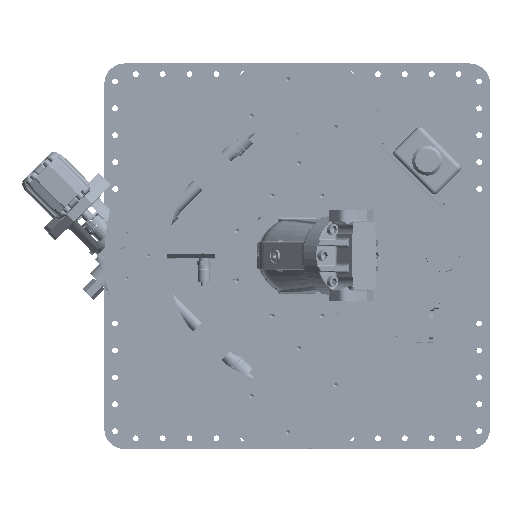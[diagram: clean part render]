
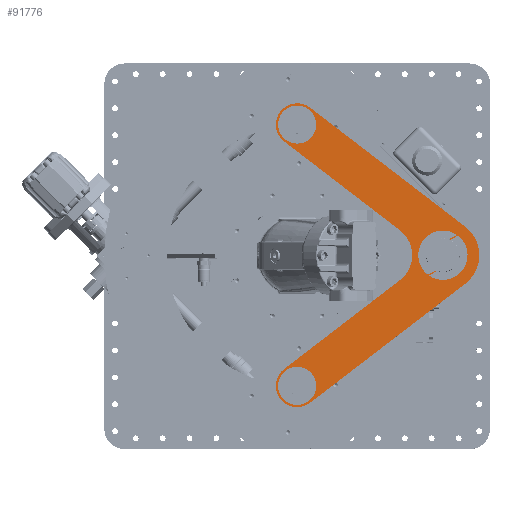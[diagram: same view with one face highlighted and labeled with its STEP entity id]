
A CAD part, top view. The second image highlights one B-rep face of the part: STEP entity #91776.
In plain terms, the highlighted planar face has unit normal (0, 0, 1).
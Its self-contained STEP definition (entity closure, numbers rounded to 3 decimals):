
#4456=FACE_BOUND('',#16202,.T.);
#4457=FACE_BOUND('',#16203,.T.);
#4458=FACE_BOUND('',#16204,.T.);
#6103=CIRCLE('',#97404,25.633);
#6105=CIRCLE('',#97408,25.633);
#6118=CIRCLE('',#97427,55.);
#6123=CIRCLE('',#97437,55.);
#6124=CIRCLE('',#97439,47.5);
#6125=CIRCLE('',#97440,80.);
#6126=CIRCLE('',#97441,47.5);
#6127=CIRCLE('',#97442,70.);
#6128=CIRCLE('',#97443,38.);
#6129=CIRCLE('',#97444,38.);
#6130=CIRCLE('',#97445,25.633);
#6131=CIRCLE('',#97446,25.633);
#10937=FACE_OUTER_BOUND('',#16201,.T.);
#16201=EDGE_LOOP('',(#59223,#59224,#59225,#59226,#59227,#59228,#59229,#59230));
#16202=EDGE_LOOP('',(#59231,#59232,#59233,#59234,#59235,#59236,#59237,#59238));
#16203=EDGE_LOOP('',(#59239,#59240));
#16204=EDGE_LOOP('',(#59241,#59242));
#22089=LINE('',#132667,#28546);
#22092=LINE('',#132679,#28549);
#22099=LINE('',#132699,#28556);
#22102=LINE('',#132709,#28559);
#22104=LINE('',#132716,#28561);
#22105=LINE('',#132720,#28562);
#22106=LINE('',#132724,#28563);
#22107=LINE('',#132728,#28564);
#28546=VECTOR('',#106512,10.);
#28549=VECTOR('',#106525,10.);
#28556=VECTOR('',#106544,10.);
#28559=VECTOR('',#106555,10.);
#28561=VECTOR('',#106563,10.);
#28562=VECTOR('',#106566,10.);
#28563=VECTOR('',#106569,10.);
#28564=VECTOR('',#106572,10.);
#35669=VERTEX_POINT('',#132602);
#35674=VERTEX_POINT('',#132620);
#35679=VERTEX_POINT('',#132648);
#35681=VERTEX_POINT('',#132651);
#35687=VERTEX_POINT('',#132665);
#35691=VERTEX_POINT('',#132678);
#35692=VERTEX_POINT('',#132684);
#35693=VERTEX_POINT('',#132685);
#35698=VERTEX_POINT('',#132697);
#35701=VERTEX_POINT('',#132708);
#35702=VERTEX_POINT('',#132714);
#35703=VERTEX_POINT('',#132715);
#35704=VERTEX_POINT('',#132717);
#35705=VERTEX_POINT('',#132719);
#35706=VERTEX_POINT('',#132721);
#35707=VERTEX_POINT('',#132723);
#35708=VERTEX_POINT('',#132725);
#35709=VERTEX_POINT('',#132727);
#35710=VERTEX_POINT('',#132732);
#35711=VERTEX_POINT('',#132733);
#44710=EDGE_CURVE('',#35674,#35669,#6103,.T.);
#44712=EDGE_CURVE('',#35669,#35674,#6105,.T.);
#44728=EDGE_CURVE('',#35679,#35687,#22089,.T.);
#44734=EDGE_CURVE('',#35691,#35681,#22092,.T.);
#44736=EDGE_CURVE('',#35687,#35691,#6118,.T.);
#44744=EDGE_CURVE('',#35692,#35698,#22099,.T.);
#44749=EDGE_CURVE('',#35701,#35693,#22102,.T.);
#44751=EDGE_CURVE('',#35698,#35701,#6123,.T.);
#44752=EDGE_CURVE('',#35702,#35703,#22104,.T.);
#44753=EDGE_CURVE('',#35703,#35704,#6124,.T.);
#44754=EDGE_CURVE('',#35704,#35705,#22105,.T.);
#44755=EDGE_CURVE('',#35705,#35706,#6125,.T.);
#44756=EDGE_CURVE('',#35706,#35707,#22106,.T.);
#44757=EDGE_CURVE('',#35707,#35708,#6126,.T.);
#44758=EDGE_CURVE('',#35708,#35709,#22107,.T.);
#44759=EDGE_CURVE('',#35709,#35702,#6127,.T.);
#44760=EDGE_CURVE('',#35681,#35692,#6128,.T.);
#44761=EDGE_CURVE('',#35693,#35679,#6129,.T.);
#44762=EDGE_CURVE('',#35710,#35711,#6130,.T.);
#44763=EDGE_CURVE('',#35711,#35710,#6131,.T.);
#59223=ORIENTED_EDGE('',*,*,#44752,.T.);
#59224=ORIENTED_EDGE('',*,*,#44753,.T.);
#59225=ORIENTED_EDGE('',*,*,#44754,.T.);
#59226=ORIENTED_EDGE('',*,*,#44755,.T.);
#59227=ORIENTED_EDGE('',*,*,#44756,.T.);
#59228=ORIENTED_EDGE('',*,*,#44757,.T.);
#59229=ORIENTED_EDGE('',*,*,#44758,.T.);
#59230=ORIENTED_EDGE('',*,*,#44759,.T.);
#59231=ORIENTED_EDGE('',*,*,#44728,.T.);
#59232=ORIENTED_EDGE('',*,*,#44736,.T.);
#59233=ORIENTED_EDGE('',*,*,#44734,.T.);
#59234=ORIENTED_EDGE('',*,*,#44760,.T.);
#59235=ORIENTED_EDGE('',*,*,#44744,.T.);
#59236=ORIENTED_EDGE('',*,*,#44751,.T.);
#59237=ORIENTED_EDGE('',*,*,#44749,.T.);
#59238=ORIENTED_EDGE('',*,*,#44761,.T.);
#59239=ORIENTED_EDGE('',*,*,#44762,.T.);
#59240=ORIENTED_EDGE('',*,*,#44763,.T.);
#59241=ORIENTED_EDGE('',*,*,#44712,.T.);
#59242=ORIENTED_EDGE('',*,*,#44710,.T.);
#84060=PLANE('',#97438);
#91776=ADVANCED_FACE('',(#10937,#4456,#4457,#4458),#84060,.T.);
#97404=AXIS2_PLACEMENT_3D('',#132632,#106472,#106473);
#97408=AXIS2_PLACEMENT_3D('',#132636,#106480,#106481);
#97427=AXIS2_PLACEMENT_3D('',#132682,#106529,#106530);
#97437=AXIS2_PLACEMENT_3D('',#132712,#106559,#106560);
#97438=AXIS2_PLACEMENT_3D('',#132713,#106561,#106562);
#97439=AXIS2_PLACEMENT_3D('',#132718,#106564,#106565);
#97440=AXIS2_PLACEMENT_3D('',#132722,#106567,#106568);
#97441=AXIS2_PLACEMENT_3D('',#132726,#106570,#106571);
#97442=AXIS2_PLACEMENT_3D('',#132729,#106573,#106574);
#97443=AXIS2_PLACEMENT_3D('',#132730,#106575,#106576);
#97444=AXIS2_PLACEMENT_3D('',#132731,#106577,#106578);
#97445=AXIS2_PLACEMENT_3D('',#132734,#106579,#106580);
#97446=AXIS2_PLACEMENT_3D('',#132735,#106581,#106582);
#106472=DIRECTION('center_axis',(0.,0.,
-1.));
#106473=DIRECTION('ref_axis',(0.,-1.,0.));
#106480=DIRECTION('center_axis',(0.,0.,
-1.));
#106481=DIRECTION('ref_axis',(0.,-1.,0.));
#106512=DIRECTION('',(-0.866,-0.5,0.));
#106525=DIRECTION('',(-0.866,-0.5,0.));
#106529=DIRECTION('center_axis',(0.,0.,
-1.));
#106530=DIRECTION('ref_axis',(0.866,-0.5,0.));
#106544=DIRECTION('',(0.866,0.5,0.));
#106555=DIRECTION('',(0.866,0.5,0.));
#106559=DIRECTION('center_axis',(0.,0.,
-1.));
#106560=DIRECTION('ref_axis',(0.866,-0.5,0.));
#106561=DIRECTION('center_axis',(0.,0.,
1.));
#106562=DIRECTION('ref_axis',(0.,-1.,0.));
#106563=DIRECTION('',(-0.793,-0.609,0.));
#106564=DIRECTION('center_axis',(0.,0.,
1.));
#106565=DIRECTION('ref_axis',(0.609,-0.793,0.));
#106566=DIRECTION('',(0.793,0.609,0.));
#106567=DIRECTION('center_axis',(0.,0.,
1.));
#106568=DIRECTION('ref_axis',(-0.609,0.793,0.));
#106569=DIRECTION('',(-0.793,0.609,0.));
#106570=DIRECTION('center_axis',(0.,0.,
1.));
#106571=DIRECTION('ref_axis',(-0.609,-0.793,0.));
#106572=DIRECTION('',(0.793,-0.609,0.));
#106573=DIRECTION('center_axis',(0.,0.,
-1.));
#106574=DIRECTION('ref_axis',(0.609,-0.793,0.));
#106575=DIRECTION('center_axis',(0.,0.,
-1.));
#106576=DIRECTION('ref_axis',(0.,-1.,0.));
#106577=DIRECTION('center_axis',(0.,0.,
-1.));
#106578=DIRECTION('ref_axis',(0.,-1.,0.));
#106579=DIRECTION('center_axis',(0.,0.,
-1.));
#106580=DIRECTION('ref_axis',(0.,-1.,0.));
#106581=DIRECTION('center_axis',(0.,0.,
-1.));
#106582=DIRECTION('ref_axis',(0.,-1.,0.));
#132602=CARTESIAN_POINT('',(2.483,-316.84,1400.5));
#132620=CARTESIAN_POINT('',(-0.514,-316.956,1400.5));
#132632=CARTESIAN_POINT('Origin',(0.,-291.328,
1400.5));
#132636=CARTESIAN_POINT('Origin',(0.,-291.328,
1400.5));
#132648=CARTESIAN_POINT('',(308.073,-34.022,1400.5));
#132651=CARTESIAN_POINT('',(338.515,35.515,1400.5));
#132665=CARTESIAN_POINT('',(291.477,-43.603,1400.5));
#132667=CARTESIAN_POINT('',(277.103,-51.902,1400.5));
#132678=CARTESIAN_POINT('',(355.858,45.528,1400.5));
#132679=CARTESIAN_POINT('',(288.353,6.554,1400.5));
#132682=CARTESIAN_POINT('Origin',(325.,0.,
1400.5));
#132684=CARTESIAN_POINT('',(341.927,34.021,1400.5));
#132685=CARTESIAN_POINT('',(311.485,-35.516,1400.5));
#132697=CARTESIAN_POINT('',(358.523,43.603,1400.5));
#132699=CARTESIAN_POINT('',(245.603,-21.592,1400.5));
#132708=CARTESIAN_POINT('',(294.143,-45.528,1400.5));
#132709=CARTESIAN_POINT('',(234.353,-80.048,1400.5));
#132712=CARTESIAN_POINT('Origin',(325.,0.,
1400.5));
#132713=CARTESIAN_POINT('Origin',(155.274,0.,
1400.5));
#132714=CARTESIAN_POINT('',(229.265,-55.535,1400.5));
#132715=CARTESIAN_POINT('',(-28.916,-253.644,1400.5));
#132716=CARTESIAN_POINT('',(-28.916,-253.644,1400.5));
#132717=CARTESIAN_POINT('',(28.916,-329.012,1400.5));
#132718=CARTESIAN_POINT('Origin',(0.,-291.328,
1400.5));
#132719=CARTESIAN_POINT('',(374.98,-63.469,1400.5));
#132720=CARTESIAN_POINT('',(374.98,-63.469,1400.5));
#132721=CARTESIAN_POINT('',(374.98,63.468,1400.5));
#132722=CARTESIAN_POINT('Origin',(326.279,0.,
1400.5));
#132723=CARTESIAN_POINT('',(28.917,329.012,1400.5));
#132724=CARTESIAN_POINT('',(28.917,329.012,1400.5));
#132725=CARTESIAN_POINT('',(-28.916,253.644,1400.5));
#132726=CARTESIAN_POINT('Origin',(0.,291.328,
1400.5));
#132727=CARTESIAN_POINT('',(229.265,55.535,1400.5));
#132728=CARTESIAN_POINT('',(229.265,55.535,1400.5));
#132729=CARTESIAN_POINT('Origin',(186.651,0.,
1400.5));
#132730=CARTESIAN_POINT('Origin',(325.,0.,
1400.5));
#132731=CARTESIAN_POINT('Origin',(325.,0.,
1400.5));
#132732=CARTESIAN_POINT('',(0.996,265.714,1400.5));
#132733=CARTESIAN_POINT('',(-2.003,265.773,1400.5));
#132734=CARTESIAN_POINT('Origin',(0.,291.328,
1400.5));
#132735=CARTESIAN_POINT('Origin',(0.,291.328,
1400.5));
